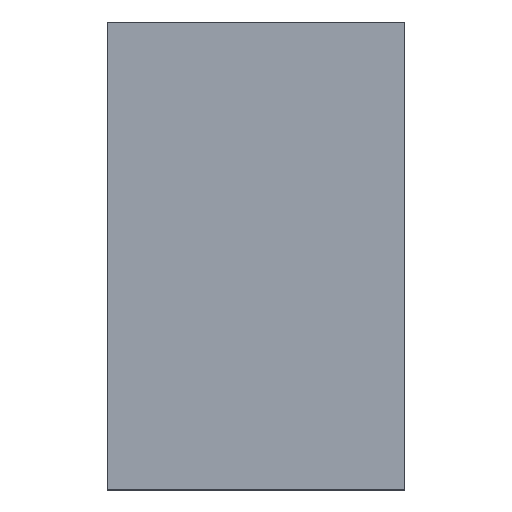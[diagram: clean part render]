
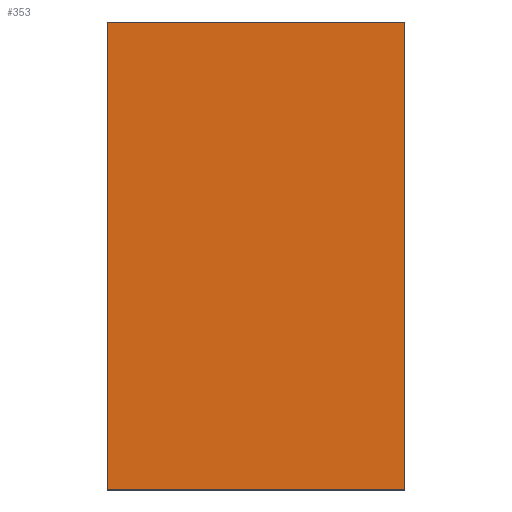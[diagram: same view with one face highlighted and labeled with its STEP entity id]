
A CAD part, top view. The second image highlights one B-rep face of the part: STEP entity #353.
In plain terms, the highlighted planar face has unit normal (0, 0, 1).
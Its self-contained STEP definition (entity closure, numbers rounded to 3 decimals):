
#39 = VERTEX_POINT('',#40);
#40 = CARTESIAN_POINT('',(0.,33.78,2.));
#47 = PLANE('',#48);
#48 = AXIS2_PLACEMENT_3D('',#49,#50,#51);
#49 = CARTESIAN_POINT('',(0.,33.78,0.));
#50 = DIRECTION('',(0.,1.,0.));
#51 = DIRECTION('',(1.,0.,0.));
#59 = PLANE('',#60);
#60 = AXIS2_PLACEMENT_3D('',#61,#62,#63);
#61 = CARTESIAN_POINT('',(0.,0.,0.));
#62 = DIRECTION('',(-1.,0.,0.));
#63 = DIRECTION('',(0.,1.,0.));
#71 = EDGE_CURVE('',#39,#72,#74,.T.);
#72 = VERTEX_POINT('',#73);
#73 = CARTESIAN_POINT('',(21.49,33.78,2.));
#74 = SURFACE_CURVE('',#75,(#79,#86),.PCURVE_S1.);
#75 = LINE('',#76,#77);
#76 = CARTESIAN_POINT('',(0.,33.78,2.));
#77 = VECTOR('',#78,1.);
#78 = DIRECTION('',(1.,0.,0.));
#79 = PCURVE('',#47,#80);
#80 = DEFINITIONAL_REPRESENTATION('',(#81),#85);
#81 = LINE('',#82,#83);
#82 = CARTESIAN_POINT('',(0.,-2.));
#83 = VECTOR('',#84,1.);
#84 = DIRECTION('',(1.,0.));
#85 = ( GEOMETRIC_REPRESENTATION_CONTEXT(2) 
PARAMETRIC_REPRESENTATION_CONTEXT() REPRESENTATION_CONTEXT('2D SPACE',''
  ) );
#86 = PCURVE('',#87,#92);
#87 = PLANE('',#88);
#88 = AXIS2_PLACEMENT_3D('',#89,#90,#91);
#89 = CARTESIAN_POINT('',(10.745,16.89,2.));
#90 = DIRECTION('',(0.,0.,-1.));
#91 = DIRECTION('',(-1.,0.,0.));
#92 = DEFINITIONAL_REPRESENTATION('',(#93),#97);
#93 = LINE('',#94,#95);
#94 = CARTESIAN_POINT('',(10.745,16.89));
#95 = VECTOR('',#96,1.);
#96 = DIRECTION('',(-1.,0.));
#97 = ( GEOMETRIC_REPRESENTATION_CONTEXT(2) 
PARAMETRIC_REPRESENTATION_CONTEXT() REPRESENTATION_CONTEXT('2D SPACE',''
  ) );
#115 = PLANE('',#116);
#116 = AXIS2_PLACEMENT_3D('',#117,#118,#119);
#117 = CARTESIAN_POINT('',(21.49,33.78,0.));
#118 = DIRECTION('',(1.,0.,-0.));
#119 = DIRECTION('',(0.,-1.,0.));
#157 = EDGE_CURVE('',#72,#158,#160,.T.);
#158 = VERTEX_POINT('',#159);
#159 = CARTESIAN_POINT('',(21.49,0.,2.));
#160 = SURFACE_CURVE('',#161,(#165,#172),.PCURVE_S1.);
#161 = LINE('',#162,#163);
#162 = CARTESIAN_POINT('',(21.49,33.78,2.));
#163 = VECTOR('',#164,1.);
#164 = DIRECTION('',(0.,-1.,0.));
#165 = PCURVE('',#115,#166);
#166 = DEFINITIONAL_REPRESENTATION('',(#167),#171);
#167 = LINE('',#168,#169);
#168 = CARTESIAN_POINT('',(0.,-2.));
#169 = VECTOR('',#170,1.);
#170 = DIRECTION('',(1.,0.));
#171 = ( GEOMETRIC_REPRESENTATION_CONTEXT(2) 
PARAMETRIC_REPRESENTATION_CONTEXT() REPRESENTATION_CONTEXT('2D SPACE',''
  ) );
#172 = PCURVE('',#87,#173);
#173 = DEFINITIONAL_REPRESENTATION('',(#174),#178);
#174 = LINE('',#175,#176);
#175 = CARTESIAN_POINT('',(-10.745,16.89));
#176 = VECTOR('',#177,1.);
#177 = DIRECTION('',(0.,-1.));
#178 = ( GEOMETRIC_REPRESENTATION_CONTEXT(2) 
PARAMETRIC_REPRESENTATION_CONTEXT() REPRESENTATION_CONTEXT('2D SPACE',''
  ) );
#196 = PLANE('',#197);
#197 = AXIS2_PLACEMENT_3D('',#198,#199,#200);
#198 = CARTESIAN_POINT('',(21.49,0.,0.));
#199 = DIRECTION('',(0.,-1.,0.));
#200 = DIRECTION('',(-1.,0.,0.));
#233 = EDGE_CURVE('',#158,#234,#236,.T.);
#234 = VERTEX_POINT('',#235);
#235 = CARTESIAN_POINT('',(0.,0.,2.));
#236 = SURFACE_CURVE('',#237,(#241,#248),.PCURVE_S1.);
#237 = LINE('',#238,#239);
#238 = CARTESIAN_POINT('',(21.49,0.,2.));
#239 = VECTOR('',#240,1.);
#240 = DIRECTION('',(-1.,0.,0.));
#241 = PCURVE('',#196,#242);
#242 = DEFINITIONAL_REPRESENTATION('',(#243),#247);
#243 = LINE('',#244,#245);
#244 = CARTESIAN_POINT('',(0.,-2.));
#245 = VECTOR('',#246,1.);
#246 = DIRECTION('',(1.,0.));
#247 = ( GEOMETRIC_REPRESENTATION_CONTEXT(2) 
PARAMETRIC_REPRESENTATION_CONTEXT() REPRESENTATION_CONTEXT('2D SPACE',''
  ) );
#248 = PCURVE('',#87,#249);
#249 = DEFINITIONAL_REPRESENTATION('',(#250),#254);
#250 = LINE('',#251,#252);
#251 = CARTESIAN_POINT('',(-10.745,-16.89));
#252 = VECTOR('',#253,1.);
#253 = DIRECTION('',(1.,0.));
#254 = ( GEOMETRIC_REPRESENTATION_CONTEXT(2) 
PARAMETRIC_REPRESENTATION_CONTEXT() REPRESENTATION_CONTEXT('2D SPACE',''
  ) );
#304 = EDGE_CURVE('',#234,#39,#305,.T.);
#305 = SURFACE_CURVE('',#306,(#310,#317),.PCURVE_S1.);
#306 = LINE('',#307,#308);
#307 = CARTESIAN_POINT('',(0.,0.,2.));
#308 = VECTOR('',#309,1.);
#309 = DIRECTION('',(0.,1.,0.));
#310 = PCURVE('',#59,#311);
#311 = DEFINITIONAL_REPRESENTATION('',(#312),#316);
#312 = LINE('',#313,#314);
#313 = CARTESIAN_POINT('',(0.,-2.));
#314 = VECTOR('',#315,1.);
#315 = DIRECTION('',(1.,0.));
#316 = ( GEOMETRIC_REPRESENTATION_CONTEXT(2) 
PARAMETRIC_REPRESENTATION_CONTEXT() REPRESENTATION_CONTEXT('2D SPACE',''
  ) );
#317 = PCURVE('',#87,#318);
#318 = DEFINITIONAL_REPRESENTATION('',(#319),#323);
#319 = LINE('',#320,#321);
#320 = CARTESIAN_POINT('',(10.745,-16.89));
#321 = VECTOR('',#322,1.);
#322 = DIRECTION('',(0.,1.));
#323 = ( GEOMETRIC_REPRESENTATION_CONTEXT(2) 
PARAMETRIC_REPRESENTATION_CONTEXT() REPRESENTATION_CONTEXT('2D SPACE',''
  ) );
#353 = ADVANCED_FACE('',(#354),#87,.F.);
#354 = FACE_BOUND('',#355,.F.);
#355 = EDGE_LOOP('',(#356,#357,#358,#359));
#356 = ORIENTED_EDGE('',*,*,#71,.T.);
#357 = ORIENTED_EDGE('',*,*,#157,.T.);
#358 = ORIENTED_EDGE('',*,*,#233,.T.);
#359 = ORIENTED_EDGE('',*,*,#304,.T.);
